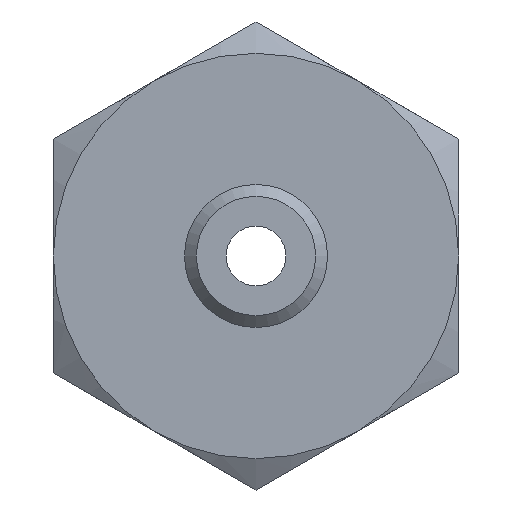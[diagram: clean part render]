
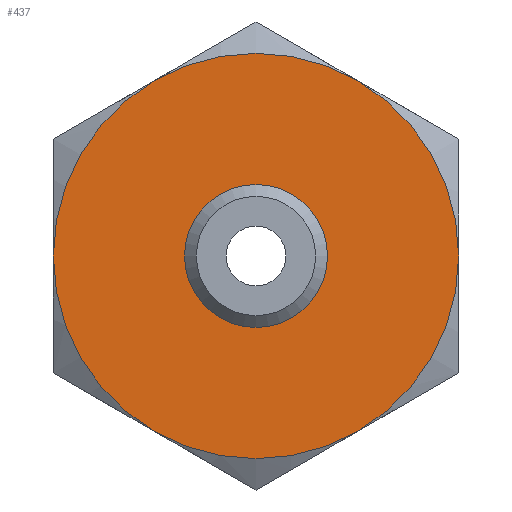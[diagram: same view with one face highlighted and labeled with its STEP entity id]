
A CAD part, front view. The second image highlights one B-rep face of the part: STEP entity #437.
In plain terms, the highlighted planar face has unit normal (0, -1, 0).
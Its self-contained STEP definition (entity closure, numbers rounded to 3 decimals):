
#55=FACE_BOUND('',#127,.T.);
#66=PLANE('',#510);
#94=FACE_OUTER_BOUND('',#126,.T.);
#126=EDGE_LOOP('',(#370,#371,#372,#373,#374,#375));
#127=EDGE_LOOP('',(#376));
#157=CIRCLE('',#473,3.);
#160=CIRCLE('',#480,8.5);
#161=CIRCLE('',#482,8.5);
#162=CIRCLE('',#484,8.5);
#163=CIRCLE('',#486,8.5);
#164=CIRCLE('',#488,8.5);
#165=CIRCLE('',#490,8.5);
#179=VERTEX_POINT('',#647);
#183=VERTEX_POINT('',#660);
#184=VERTEX_POINT('',#664);
#186=VERTEX_POINT('',#671);
#188=VERTEX_POINT('',#681);
#190=VERTEX_POINT('',#694);
#192=VERTEX_POINT('',#704);
#217=EDGE_CURVE('',#179,#179,#157,.T.);
#223=EDGE_CURVE('',#183,#184,#160,.T.);
#226=EDGE_CURVE('',#186,#183,#161,.T.);
#229=EDGE_CURVE('',#188,#186,#162,.T.);
#231=EDGE_CURVE('',#190,#188,#163,.T.);
#234=EDGE_CURVE('',#192,#190,#164,.T.);
#237=EDGE_CURVE('',#184,#192,#165,.T.);
#370=ORIENTED_EDGE('',*,*,#237,.T.);
#371=ORIENTED_EDGE('',*,*,#234,.T.);
#372=ORIENTED_EDGE('',*,*,#231,.T.);
#373=ORIENTED_EDGE('',*,*,#229,.T.);
#374=ORIENTED_EDGE('',*,*,#226,.T.);
#375=ORIENTED_EDGE('',*,*,#223,.T.);
#376=ORIENTED_EDGE('',*,*,#217,.T.);
#437=ADVANCED_FACE('',(#94,#55),#66,.F.);
#473=AXIS2_PLACEMENT_3D('',#649,#541,#542);
#480=AXIS2_PLACEMENT_3D('',#668,#556,#557);
#482=AXIS2_PLACEMENT_3D('',#678,#560,#561);
#484=AXIS2_PLACEMENT_3D('',#688,#564,#565);
#486=AXIS2_PLACEMENT_3D('',#695,#568,#569);
#488=AXIS2_PLACEMENT_3D('',#705,#572,#573);
#490=AXIS2_PLACEMENT_3D('',#714,#576,#577);
#510=AXIS2_PLACEMENT_3D('',#791,#622,#623);
#541=DIRECTION('center_axis',(0.,1.,0.));
#542=DIRECTION('ref_axis',(1.,0.,0.));
#556=DIRECTION('center_axis',(0.,-1.,0.));
#557=DIRECTION('ref_axis',(-1.,0.,0.));
#560=DIRECTION('center_axis',(0.,-1.,0.));
#561=DIRECTION('ref_axis',(-1.,0.,0.));
#564=DIRECTION('center_axis',(0.,-1.,0.));
#565=DIRECTION('ref_axis',(-1.,0.,0.));
#568=DIRECTION('center_axis',(0.,-1.,0.));
#569=DIRECTION('ref_axis',(-1.,0.,0.));
#572=DIRECTION('center_axis',(0.,-1.,0.));
#573=DIRECTION('ref_axis',(-1.,0.,0.));
#576=DIRECTION('center_axis',(0.,-1.,0.));
#577=DIRECTION('ref_axis',(-1.,0.,0.));
#622=DIRECTION('center_axis',(0.,1.,0.));
#623=DIRECTION('ref_axis',(0.,0.,1.));
#647=CARTESIAN_POINT('',(-5.347,-1.844,0.));
#649=CARTESIAN_POINT('Origin',(-2.347,-1.844,0.));
#660=CARTESIAN_POINT('',(-10.847,-1.844,0.));
#664=CARTESIAN_POINT('',(-6.597,-1.844,-7.361));
#668=CARTESIAN_POINT('Origin',(-2.347,-1.844,0.));
#671=CARTESIAN_POINT('',(-6.597,-1.844,7.361));
#678=CARTESIAN_POINT('Origin',(-2.347,-1.844,0.));
#681=CARTESIAN_POINT('',(1.903,-1.844,7.361));
#688=CARTESIAN_POINT('Origin',(-2.347,-1.844,0.));
#694=CARTESIAN_POINT('',(6.153,-1.844,0.));
#695=CARTESIAN_POINT('Origin',(-2.347,-1.844,0.));
#704=CARTESIAN_POINT('',(1.903,-1.844,-7.361));
#705=CARTESIAN_POINT('Origin',(-2.347,-1.844,0.));
#714=CARTESIAN_POINT('Origin',(-2.347,-1.844,0.));
#791=CARTESIAN_POINT('Origin',(-2.347,-1.844,0.));
